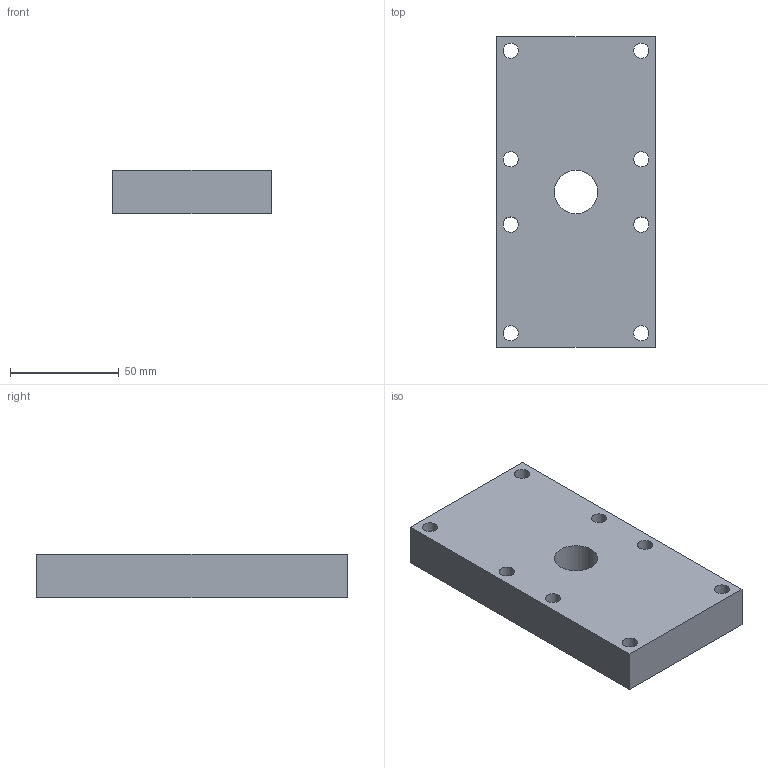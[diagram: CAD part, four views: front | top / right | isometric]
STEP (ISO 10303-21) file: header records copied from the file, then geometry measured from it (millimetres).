
FILE_DESCRIPTION(/* description */ (''),/* implementation_level */ '2;1');
FILE_NAME(/* name */ '093_supporto_manifold.stp',/* time_stamp */ '2020-01-13T11:22:16+01:00',/* author */ (''),/* organization */ (''),/* preprocessor_version */ 'ST-DEVELOPER v16.7',/* originating_system */ 'SIEMENS PLM Software NX 12.0',/* authorisation */ '');
FILE_SCHEMA (('AUTOMOTIVE_DESIGN { 1 0 10303 214 3 1 1 1 }'));
Length unit declared in the file: millimetre
Products named in the file (1): bez33CCFDAD1b4c
Bounding box: 73 x 143 x 20 mm (x, y, z)
Volume: 196339.3 mm3; surface area: 33049.2 mm2
Topology: 1 solids, 1 shells, 15 faces, 39 edges, 26 vertices
Faces by surface type: cylinder 9, plane 6
Full cylindrical faces by diameter (mm): 7 x8, 20 x1
Entity records: 494 total; most frequent: DIRECTION 80, CARTESIAN_POINT 72, ORIENTED_EDGE 60, EDGE_LOOP 42, FACE_BOUND 38, AXIS2_PLACEMENT_3D 34, EDGE_CURVE 30, VERTEX_POINT 26
